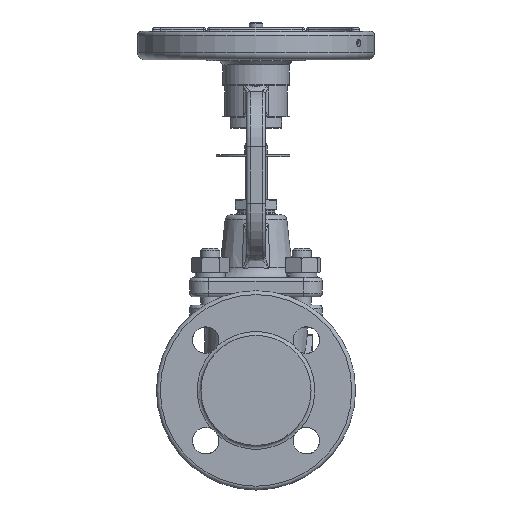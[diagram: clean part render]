
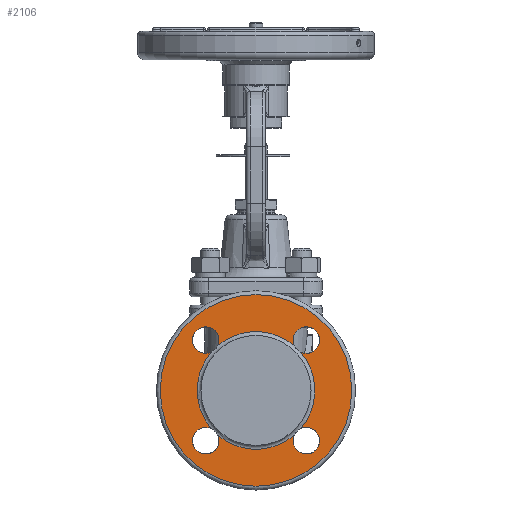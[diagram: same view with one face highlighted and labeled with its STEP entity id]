
A CAD part, front view. The second image highlights one B-rep face of the part: STEP entity #2106.
In plain terms, the highlighted planar face has unit normal (0, -1, 0).
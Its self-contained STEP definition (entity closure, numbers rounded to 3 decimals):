
#2106=ADVANCED_FACE('',(#3321,#3322),#2960,.F.);
#2960=PLANE('',#14036);
#3321=FACE_BOUND('',#3674,.T.);
#3322=FACE_BOUND('',#3675,.T.);
#3674=EDGE_LOOP('',(#5615));
#3675=EDGE_LOOP('',(#5616,#5617,#5618,#5619,#5620,#5621,#5622,#5623));
#4793=CIRCLE('',#14027,50.5);
#4794=CIRCLE('',#14028,7.);
#4795=CIRCLE('',#14029,31.);
#4796=CIRCLE('',#14030,7.);
#4797=CIRCLE('',#14031,31.);
#4798=CIRCLE('',#14032,7.);
#4799=CIRCLE('',#14033,31.);
#4800=CIRCLE('',#14034,7.);
#4801=CIRCLE('',#14035,31.);
#5615=ORIENTED_EDGE('',*,*,#10877,.T.);
#5616=ORIENTED_EDGE('',*,*,#10878,.F.);
#5617=ORIENTED_EDGE('',*,*,#10879,.T.);
#5618=ORIENTED_EDGE('',*,*,#10880,.T.);
#5619=ORIENTED_EDGE('',*,*,#10881,.T.);
#5620=ORIENTED_EDGE('',*,*,#10882,.F.);
#5621=ORIENTED_EDGE('',*,*,#10883,.T.);
#5622=ORIENTED_EDGE('',*,*,#10884,.T.);
#5623=ORIENTED_EDGE('',*,*,#10885,.T.);
#9587=VERTEX_POINT('',#23161);
#9588=VERTEX_POINT('',#23163);
#9589=VERTEX_POINT('',#23164);
#9590=VERTEX_POINT('',#23166);
#9591=VERTEX_POINT('',#23168);
#9592=VERTEX_POINT('',#23170);
#9593=VERTEX_POINT('',#23172);
#9594=VERTEX_POINT('',#23174);
#9595=VERTEX_POINT('',#23176);
#10877=EDGE_CURVE('',#9587,#9587,#4793,.T.);
#10878=EDGE_CURVE('',#9588,#9589,#4794,.T.);
#10879=EDGE_CURVE('',#9588,#9590,#4795,.T.);
#10880=EDGE_CURVE('',#9590,#9591,#4796,.T.);
#10881=EDGE_CURVE('',#9591,#9592,#4797,.T.);
#10882=EDGE_CURVE('',#9593,#9592,#4798,.T.);
#10883=EDGE_CURVE('',#9593,#9594,#4799,.T.);
#10884=EDGE_CURVE('',#9594,#9595,#4800,.T.);
#10885=EDGE_CURVE('',#9595,#9589,#4801,.T.);
#14027=AXIS2_PLACEMENT_3D('',#23160,#15680,#15681);
#14028=AXIS2_PLACEMENT_3D('',#23162,#15682,#15683);
#14029=AXIS2_PLACEMENT_3D('',#23165,#15684,#15685);
#14030=AXIS2_PLACEMENT_3D('',#23167,#15686,#15687);
#14031=AXIS2_PLACEMENT_3D('',#23169,#15688,#15689);
#14032=AXIS2_PLACEMENT_3D('',#23171,#15690,#15691);
#14033=AXIS2_PLACEMENT_3D('',#23173,#15692,#15693);
#14034=AXIS2_PLACEMENT_3D('',#23175,#15694,#15695);
#14035=AXIS2_PLACEMENT_3D('',#23177,#15696,#15697);
#14036=AXIS2_PLACEMENT_3D('',#23178,#15698,#15699);
#15680=DIRECTION('',(0.,-1.,0.));
#15681=DIRECTION('',(-1.,0.,0.));
#15682=DIRECTION('',(0.,-1.,0.));
#15683=DIRECTION('',(-1.,0.,0.));
#15684=DIRECTION('',(0.,1.,0.));
#15685=DIRECTION('',(-1.,0.,0.));
#15686=DIRECTION('',(0.,1.,0.));
#15687=DIRECTION('',(-1.,0.,0.));
#15688=DIRECTION('',(0.,1.,0.));
#15689=DIRECTION('',(-1.,0.,0.));
#15690=DIRECTION('',(0.,-1.,0.));
#15691=DIRECTION('',(-1.,0.,0.));
#15692=DIRECTION('',(0.,1.,0.));
#15693=DIRECTION('',(-1.,0.,0.));
#15694=DIRECTION('',(0.,1.,0.));
#15695=DIRECTION('',(-1.,0.,0.));
#15696=DIRECTION('',(0.,1.,0.));
#15697=DIRECTION('',(-1.,0.,0.));
#15698=DIRECTION('',(0.,1.,0.));
#15699=DIRECTION('',(-1.,0.,0.));
#23160=CARTESIAN_POINT('',(0.,-73.,0.));
#23161=CARTESIAN_POINT('',(-50.5,-73.,0.));
#23162=CARTESIAN_POINT('',(-26.517,-73.,26.517));
#23163=CARTESIAN_POINT('',(-20.188,-73.,23.526));
#23164=CARTESIAN_POINT('',(-23.526,-73.,20.188));
#23165=CARTESIAN_POINT('',(0.,-73.,0.));
#23166=CARTESIAN_POINT('',(20.188,-73.,23.526));
#23167=CARTESIAN_POINT('',(26.517,-73.,26.517));
#23168=CARTESIAN_POINT('',(23.526,-73.,20.188));
#23169=CARTESIAN_POINT('',(0.,-73.,0.));
#23170=CARTESIAN_POINT('',(23.526,-73.,-20.188));
#23171=CARTESIAN_POINT('',(26.517,-73.,-26.517));
#23172=CARTESIAN_POINT('',(20.188,-73.,-23.526));
#23173=CARTESIAN_POINT('',(0.,-73.,0.));
#23174=CARTESIAN_POINT('',(-20.188,-73.,-23.526));
#23175=CARTESIAN_POINT('',(-26.517,-73.,-26.517));
#23176=CARTESIAN_POINT('',(-23.526,-73.,-20.188));
#23177=CARTESIAN_POINT('',(0.,-73.,0.));
#23178=CARTESIAN_POINT('',(0.,-73.,29.));
